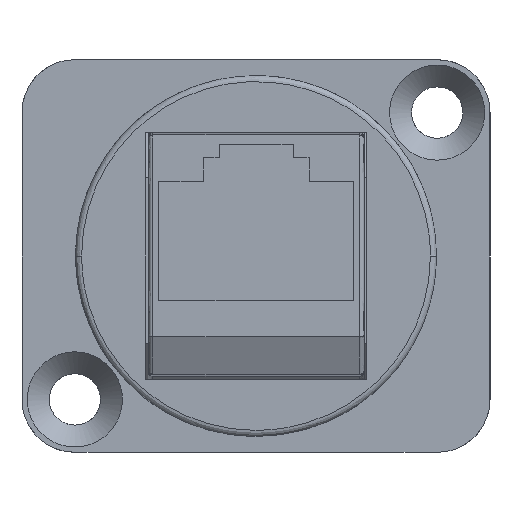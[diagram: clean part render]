
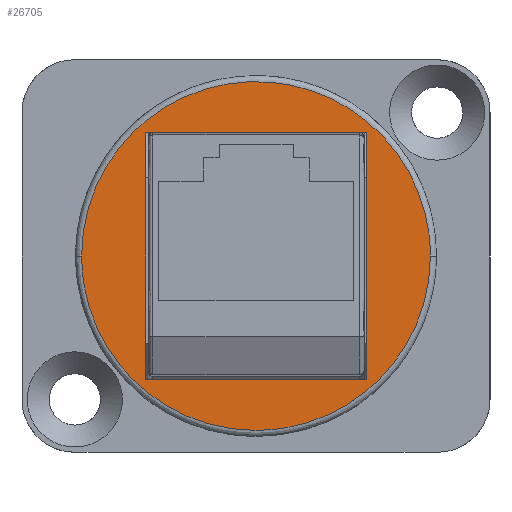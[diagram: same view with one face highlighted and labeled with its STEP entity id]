
A CAD part, left-side view. The second image highlights one B-rep face of the part: STEP entity #26705.
In plain terms, the highlighted free-form (B-spline) face has degree [1, 1] with [2, 2] control points.
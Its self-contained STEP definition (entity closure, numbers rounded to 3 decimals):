
#26325 = VERTEX_POINT('',#26326);
#26326 = CARTESIAN_POINT('',(0.,0.,-11.537));
#26346 = EDGE_CURVE('',#26325,#26347,#26349,.T.);
#26347 = VERTEX_POINT('',#26348);
#26348 = CARTESIAN_POINT('',(-11.55,0.,0.013));
#26349 = B_SPLINE_CURVE_WITH_KNOTS('',5,(#26350,#26351,#26352,#26353,
    #26354,#26355,#26356,#26357,#26358,#26359,#26360,#26361,#26362,
    #26363,#26364),.UNSPECIFIED.,.F.,.F.,(6,3,3,3,6),(0.,0.393,
    0.785,1.178,1.571),.UNSPECIFIED.);
#26350 = CARTESIAN_POINT('',(0.,0.,-11.537));
#26351 = CARTESIAN_POINT('',(-0.907,0.,-11.537));
#26352 = CARTESIAN_POINT('',(-1.814,0.,-11.448));
#26353 = CARTESIAN_POINT('',(-2.71,0.,-11.269));
#26354 = CARTESIAN_POINT('',(-4.454,0.,-10.74));
#26355 = CARTESIAN_POINT('',(-6.062,0.,-9.881));
#26356 = CARTESIAN_POINT('',(-6.821,0.,-9.374));
#26357 = CARTESIAN_POINT('',(-8.23,0.,-8.217));
#26358 = CARTESIAN_POINT('',(-9.387,0.,-6.808));
#26359 = CARTESIAN_POINT('',(-9.894,0.,-6.049));
#26360 = CARTESIAN_POINT('',(-10.753,0.,-4.441));
#26361 = CARTESIAN_POINT('',(-11.283,0.,-2.696));
#26362 = CARTESIAN_POINT('',(-11.461,0.,-1.801));
#26363 = CARTESIAN_POINT('',(-11.55,0.,-0.894));
#26364 = CARTESIAN_POINT('',(-11.55,0.,0.013));
#26366 = EDGE_CURVE('',#26347,#26367,#26369,.T.);
#26367 = VERTEX_POINT('',#26368);
#26368 = CARTESIAN_POINT('',(0.,0.,11.563));
#26369 = B_SPLINE_CURVE_WITH_KNOTS('',5,(#26370,#26371,#26372,#26373,
    #26374,#26375,#26376,#26377,#26378,#26379,#26380,#26381,#26382,
    #26383,#26384),.UNSPECIFIED.,.F.,.F.,(6,3,3,3,6),(0.,0.393,
    0.785,1.178,1.571),.UNSPECIFIED.);
#26370 = CARTESIAN_POINT('',(-11.55,0.,0.013));
#26371 = CARTESIAN_POINT('',(-11.55,0.,0.921));
#26372 = CARTESIAN_POINT('',(-11.461,0.,1.828));
#26373 = CARTESIAN_POINT('',(-11.283,0.,2.723));
#26374 = CARTESIAN_POINT('',(-10.753,0.,4.467));
#26375 = CARTESIAN_POINT('',(-9.894,0.,6.075));
#26376 = CARTESIAN_POINT('',(-9.387,0.,6.835));
#26377 = CARTESIAN_POINT('',(-8.23,0.,8.243));
#26378 = CARTESIAN_POINT('',(-6.821,0.,9.4));
#26379 = CARTESIAN_POINT('',(-6.062,0.,9.908));
#26380 = CARTESIAN_POINT('',(-4.454,0.,10.766));
#26381 = CARTESIAN_POINT('',(-2.71,0.,11.296));
#26382 = CARTESIAN_POINT('',(-1.814,0.,11.474));
#26383 = CARTESIAN_POINT('',(-0.907,0.,11.563));
#26384 = CARTESIAN_POINT('',(0.,0.,11.563));
#26525 = EDGE_CURVE('',#26367,#26325,#26526,.T.);
#26526 = B_SPLINE_CURVE_WITH_KNOTS('',5,(#26527,#26528,#26529,#26530,
    #26531,#26532,#26533,#26534,#26535,#26536,#26537,#26538,#26539,
    #26540,#26541,#26542,#26543,#26544,#26545,#26546,#26547,#26548,
    #26549,#26550,#26551,#26552,#26553),.UNSPECIFIED.,.F.,.F.,(6,3,3,3,3
    ,3,3,3,6),(0.,0.393,0.785,1.178,
    1.571,1.963,2.356,2.749,
    3.142),.UNSPECIFIED.);
#26527 = CARTESIAN_POINT('',(0.,0.,11.563));
#26528 = CARTESIAN_POINT('',(0.907,0.,11.563));
#26529 = CARTESIAN_POINT('',(1.814,0.,11.474));
#26530 = CARTESIAN_POINT('',(2.71,0.,11.296));
#26531 = CARTESIAN_POINT('',(4.454,0.,10.766));
#26532 = CARTESIAN_POINT('',(6.062,0.,9.908));
#26533 = CARTESIAN_POINT('',(6.821,0.,9.4));
#26534 = CARTESIAN_POINT('',(8.23,0.,8.243));
#26535 = CARTESIAN_POINT('',(9.387,0.,6.835));
#26536 = CARTESIAN_POINT('',(9.894,0.,6.075));
#26537 = CARTESIAN_POINT('',(10.753,0.,4.467));
#26538 = CARTESIAN_POINT('',(11.283,0.,2.723));
#26539 = CARTESIAN_POINT('',(11.461,0.,1.828));
#26540 = CARTESIAN_POINT('',(11.639,0.,0.013)
  );
#26541 = CARTESIAN_POINT('',(11.461,0.,-1.801));
#26542 = CARTESIAN_POINT('',(11.283,0.,-2.696));
#26543 = CARTESIAN_POINT('',(10.753,0.,-4.441));
#26544 = CARTESIAN_POINT('',(9.894,0.,-6.049));
#26545 = CARTESIAN_POINT('',(9.387,0.,-6.808));
#26546 = CARTESIAN_POINT('',(8.23,0.,-8.217));
#26547 = CARTESIAN_POINT('',(6.821,0.,-9.374));
#26548 = CARTESIAN_POINT('',(6.062,0.,-9.881));
#26549 = CARTESIAN_POINT('',(4.454,0.,-10.74));
#26550 = CARTESIAN_POINT('',(2.71,0.,-11.269));
#26551 = CARTESIAN_POINT('',(1.814,0.,-11.448));
#26552 = CARTESIAN_POINT('',(0.907,0.,-11.537));
#26553 = CARTESIAN_POINT('',(0.,0.,-11.537));
#26705 = ADVANCED_FACE('',(#26706,#26711),#26757,.F.);
#26706 = FACE_BOUND('',#26707,.F.);
#26707 = EDGE_LOOP('',(#26708,#26709,#26710));
#26708 = ORIENTED_EDGE('',*,*,#26525,.T.);
#26709 = ORIENTED_EDGE('',*,*,#26346,.T.);
#26710 = ORIENTED_EDGE('',*,*,#26366,.T.);
#26711 = FACE_BOUND('',#26712,.F.);
#26712 = EDGE_LOOP('',(#26713,#26726,#26737,#26748));
#26713 = ORIENTED_EDGE('',*,*,#26714,.F.);
#26714 = EDGE_CURVE('',#26715,#26717,#26719,.T.);
#26715 = VERTEX_POINT('',#26716);
#26716 = CARTESIAN_POINT('',(-8.15,0.,7.325));
#26717 = VERTEX_POINT('',#26718);
#26718 = CARTESIAN_POINT('',(8.15,0.,7.325));
#26719 = B_SPLINE_CURVE_WITH_KNOTS('',5,(#26720,#26721,#26722,#26723,
    #26724,#26725),.UNSPECIFIED.,.F.,.F.,(6,6),(0.,16.3),
  .PIECEWISE_BEZIER_KNOTS.);
#26720 = CARTESIAN_POINT('',(-8.15,0.,7.325));
#26721 = CARTESIAN_POINT('',(-4.89,0.,7.325));
#26722 = CARTESIAN_POINT('',(-1.63,0.,7.325));
#26723 = CARTESIAN_POINT('',(1.63,0.,7.325));
#26724 = CARTESIAN_POINT('',(4.89,0.,7.325));
#26725 = CARTESIAN_POINT('',(8.15,0.,7.325));
#26726 = ORIENTED_EDGE('',*,*,#26727,.F.);
#26727 = EDGE_CURVE('',#26728,#26715,#26730,.T.);
#26728 = VERTEX_POINT('',#26729);
#26729 = CARTESIAN_POINT('',(-8.15,0.,-7.325));
#26730 = B_SPLINE_CURVE_WITH_KNOTS('',5,(#26731,#26732,#26733,#26734,
    #26735,#26736),.UNSPECIFIED.,.F.,.F.,(6,6),(0.,14.65),
  .PIECEWISE_BEZIER_KNOTS.);
#26731 = CARTESIAN_POINT('',(-8.15,0.,-7.325));
#26732 = CARTESIAN_POINT('',(-8.15,0.,-4.395));
#26733 = CARTESIAN_POINT('',(-8.15,0.,-1.465));
#26734 = CARTESIAN_POINT('',(-8.15,0.,1.465));
#26735 = CARTESIAN_POINT('',(-8.15,0.,4.395));
#26736 = CARTESIAN_POINT('',(-8.15,0.,7.325));
#26737 = ORIENTED_EDGE('',*,*,#26738,.F.);
#26738 = EDGE_CURVE('',#26739,#26728,#26741,.T.);
#26739 = VERTEX_POINT('',#26740);
#26740 = CARTESIAN_POINT('',(8.15,0.,-7.325));
#26741 = B_SPLINE_CURVE_WITH_KNOTS('',5,(#26742,#26743,#26744,#26745,
    #26746,#26747),.UNSPECIFIED.,.F.,.F.,(6,6),(0.,16.3),
  .PIECEWISE_BEZIER_KNOTS.);
#26742 = CARTESIAN_POINT('',(8.15,0.,-7.325));
#26743 = CARTESIAN_POINT('',(4.89,0.,-7.325));
#26744 = CARTESIAN_POINT('',(1.63,0.,-7.325));
#26745 = CARTESIAN_POINT('',(-1.63,0.,-7.325));
#26746 = CARTESIAN_POINT('',(-4.89,0.,-7.325));
#26747 = CARTESIAN_POINT('',(-8.15,0.,-7.325));
#26748 = ORIENTED_EDGE('',*,*,#26749,.F.);
#26749 = EDGE_CURVE('',#26717,#26739,#26750,.T.);
#26750 = B_SPLINE_CURVE_WITH_KNOTS('',5,(#26751,#26752,#26753,#26754,
    #26755,#26756),.UNSPECIFIED.,.F.,.F.,(6,6),(0.,14.65),
  .PIECEWISE_BEZIER_KNOTS.);
#26751 = CARTESIAN_POINT('',(8.15,0.,7.325));
#26752 = CARTESIAN_POINT('',(8.15,0.,4.395));
#26753 = CARTESIAN_POINT('',(8.15,0.,1.465));
#26754 = CARTESIAN_POINT('',(8.15,0.,-1.465));
#26755 = CARTESIAN_POINT('',(8.15,0.,-4.395));
#26756 = CARTESIAN_POINT('',(8.15,0.,-7.325));
#26757 = B_SPLINE_SURFACE_WITH_KNOTS('',1,1,(
    (#26758,#26759)
    ,(#26760,#26761
    )),.UNSPECIFIED.,.F.,.F.,.F.,(2,2),(2,2),(0.,1.),(0.,1.),
  .PIECEWISE_BEZIER_KNOTS.);
#26758 = CARTESIAN_POINT('',(-11.55,0.,-11.537));
#26759 = CARTESIAN_POINT('',(11.55,0.,-11.537));
#26760 = CARTESIAN_POINT('',(-11.55,0.,11.563));
#26761 = CARTESIAN_POINT('',(11.55,0.,11.563));
